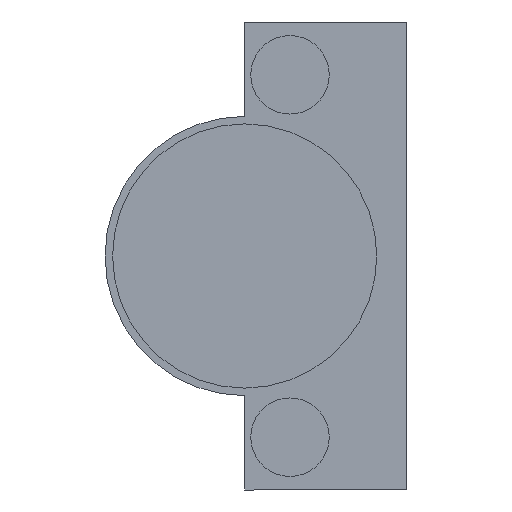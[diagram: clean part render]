
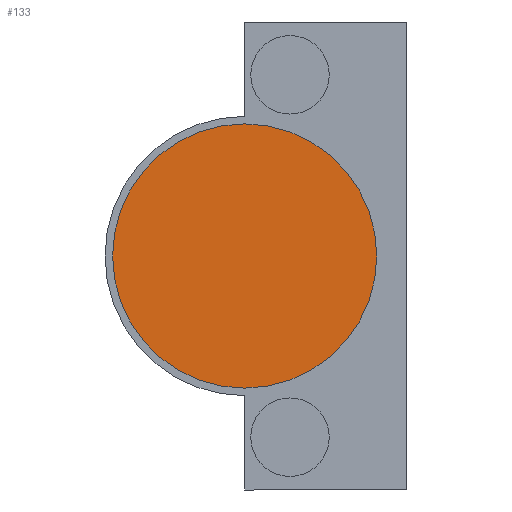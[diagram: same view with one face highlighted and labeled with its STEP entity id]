
A CAD part, front view. The second image highlights one B-rep face of the part: STEP entity #133.
In plain terms, the highlighted planar face has unit normal (0, -1, 0).
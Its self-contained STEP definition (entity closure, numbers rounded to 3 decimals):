
#7 = EDGE_LOOP ( 'NONE', ( #1209, #750 ) ) ;
#99 = DIRECTION ( 'NONE',  ( 1., 0., 0. ) ) ;
#118 = DIRECTION ( 'NONE',  ( 0., -1., 0. ) ) ;
#122 = CARTESIAN_POINT ( 'NONE',  ( 5.5, -12.6, 0. ) ) ;
#133 = ADVANCED_FACE ( 'NONE', ( #1123 ), #1546, .T. ) ;
#177 = DIRECTION ( 'NONE',  ( 1., 0., 0. ) ) ;
#184 = DIRECTION ( 'NONE',  ( 0., -1., 0. ) ) ;
#185 = CARTESIAN_POINT ( 'NONE',  ( 5.5, -12.6, 0. ) ) ;
#196 = AXIS2_PLACEMENT_3D ( 'NONE', #1651, #1432, #1564 ) ;
#391 = AXIS2_PLACEMENT_3D ( 'NONE', #122, #118, #99 ) ;
#494 = CIRCLE ( 'NONE', #810, 17.5 ) ;
#509 = CIRCLE ( 'NONE', #391, 17.5 ) ;
#563 = CARTESIAN_POINT ( 'NONE',  ( 23., -12.6, 0. ) ) ;
#750 = ORIENTED_EDGE ( 'NONE', *, *, #1427, .T. ) ;
#760 = VERTEX_POINT ( 'NONE', #1057 ) ;
#810 = AXIS2_PLACEMENT_3D ( 'NONE', #185, #184, #177 ) ;
#1057 = CARTESIAN_POINT ( 'NONE',  ( -12., -12.6, 0. ) ) ;
#1123 = FACE_OUTER_BOUND ( 'NONE', #7, .T. ) ;
#1197 = VERTEX_POINT ( 'NONE', #563 ) ;
#1209 = ORIENTED_EDGE ( 'NONE', *, *, #1551, .T. ) ;
#1427 = EDGE_CURVE ( 'NONE', #1197, #760, #509, .T. ) ;
#1432 = DIRECTION ( 'NONE',  ( 0., -1., 0. ) ) ;
#1546 = PLANE ( 'NONE',  #196 ) ;
#1551 = EDGE_CURVE ( 'NONE', #760, #1197, #494, .T. ) ;
#1564 = DIRECTION ( 'NONE',  ( 1., 0., 0. ) ) ;
#1651 = CARTESIAN_POINT ( 'NONE',  ( 5.5, -12.6, 0. ) ) ;
